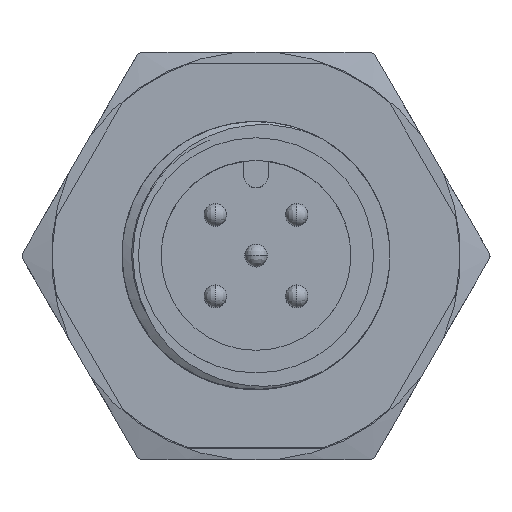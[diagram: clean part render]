
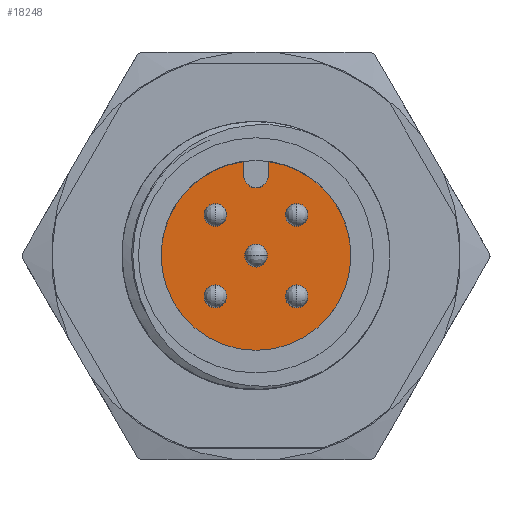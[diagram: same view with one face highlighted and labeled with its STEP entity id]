
A CAD part, top view. The second image highlights one B-rep face of the part: STEP entity #18248.
In plain terms, the highlighted planar face has unit normal (0, 0, 1).
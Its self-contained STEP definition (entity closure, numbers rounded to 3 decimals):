
#96 = CARTESIAN_POINT ( 'NONE',  ( -1.8, -1.8, -9. ) ) ;
#465 = DIRECTION ( 'NONE',  ( -1., 0., 0. ) ) ;
#481 = ORIENTED_EDGE ( 'NONE', *, *, #3209, .T. ) ;
#539 = AXIS2_PLACEMENT_3D ( 'NONE', #4181, #17751, #1861 ) ;
#584 = CARTESIAN_POINT ( 'NONE',  ( -1.8, 1.8, -9. ) ) ;
#600 = ORIENTED_EDGE ( 'NONE', *, *, #7146, .T. ) ;
#677 = CARTESIAN_POINT ( 'NONE',  ( -1.8, -1.8, -9. ) ) ;
#784 = CARTESIAN_POINT ( 'NONE',  ( 1.8, -2.3, -9. ) ) ;
#819 = DIRECTION ( 'NONE',  ( 0., 0., -1. ) ) ;
#908 = DIRECTION ( 'NONE',  ( -1., 0., 0. ) ) ;
#1058 = CIRCLE ( 'NONE', #2911, 0.5 ) ;
#1123 = VERTEX_POINT ( 'NONE', #18242 ) ;
#1203 = AXIS2_PLACEMENT_3D ( 'NONE', #677, #16801, #908 ) ;
#1227 = ORIENTED_EDGE ( 'NONE', *, *, #20174, .T. ) ;
#1405 = VERTEX_POINT ( 'NONE', #10468 ) ;
#1647 = AXIS2_PLACEMENT_3D ( 'NONE', #6809, #15513, #10181 ) ;
#1861 = DIRECTION ( 'NONE',  ( 1., 0., 0. ) ) ;
#2035 = CARTESIAN_POINT ( 'NONE',  ( 1.8, -1.8, -9. ) ) ;
#2148 = VECTOR ( 'NONE', #19038, 1000. ) ;
#2209 = DIRECTION ( 'NONE',  ( 0., 0., -1. ) ) ;
#2273 = EDGE_CURVE ( 'NONE', #12224, #9618, #20701, .T. ) ;
#2454 = FACE_OUTER_BOUND ( 'NONE', #9440, .T. ) ;
#2580 = DIRECTION ( 'NONE',  ( 0., 0., -1. ) ) ;
#2603 = DIRECTION ( 'NONE',  ( 0., 1., 0. ) ) ;
#2909 = FACE_BOUND ( 'NONE', #3083, .T. ) ;
#2910 = VERTEX_POINT ( 'NONE', #4271 ) ;
#2911 = AXIS2_PLACEMENT_3D ( 'NONE', #4310, #2580, #11277 ) ;
#2958 = EDGE_CURVE ( 'NONE', #10174, #4325, #4173, .T. ) ;
#3083 = EDGE_LOOP ( 'NONE', ( #22085, #11134 ) ) ;
#3209 = EDGE_CURVE ( 'NONE', #9900, #1405, #8696, .T. ) ;
#3793 = EDGE_CURVE ( 'NONE', #2910, #1123, #5036, .T. ) ;
#3842 = AXIS2_PLACEMENT_3D ( 'NONE', #16593, #819, #20177 ) ;
#4173 = CIRCLE ( 'NONE', #1203, 0.5 ) ;
#4181 = CARTESIAN_POINT ( 'NONE',  ( 0., 0., -9. ) ) ;
#4271 = CARTESIAN_POINT ( 'NONE',  ( -1.8, 2.3, -9. ) ) ;
#4310 = CARTESIAN_POINT ( 'NONE',  ( 1.8, -1.8, -9. ) ) ;
#4325 = VERTEX_POINT ( 'NONE', #5168 ) ;
#4333 = CARTESIAN_POINT ( 'NONE',  ( 0.55, 3.857, -9. ) ) ;
#4346 = ORIENTED_EDGE ( 'NONE', *, *, #16441, .T. ) ;
#4383 = CIRCLE ( 'NONE', #17340, 0.5 ) ;
#4894 = CARTESIAN_POINT ( 'NONE',  ( -0.55, -0.018, -9. ) ) ;
#5036 = CIRCLE ( 'NONE', #9112, 0.5 ) ;
#5168 = CARTESIAN_POINT ( 'NONE',  ( -1.8, -2.3, -9. ) ) ;
#5203 = DIRECTION ( 'NONE',  ( 1., 0., 0. ) ) ;
#5284 = VERTEX_POINT ( 'NONE', #784 ) ;
#5335 = CIRCLE ( 'NONE', #3842, 0.5 ) ;
#5925 = CARTESIAN_POINT ( 'NONE',  ( 0.55, 4.164, -9. ) ) ;
#6048 = CARTESIAN_POINT ( 'NONE',  ( 0.55, 3.55, -9. ) ) ;
#6417 = LINE ( 'NONE', #4894, #2148 ) ;
#6809 = CARTESIAN_POINT ( 'NONE',  ( 0., 3.55, -9. ) ) ;
#7121 = ORIENTED_EDGE ( 'NONE', *, *, #9734, .T. ) ;
#7146 = EDGE_CURVE ( 'NONE', #17878, #5284, #20063, .T. ) ;
#7571 = CARTESIAN_POINT ( 'NONE',  ( -1.8, 1.8, -9. ) ) ;
#7683 = DIRECTION ( 'NONE',  ( 1., 0., 0. ) ) ;
#8563 = CARTESIAN_POINT ( 'NONE',  ( 1.8, -1.3, -9. ) ) ;
#8696 = CIRCLE ( 'NONE', #1647, 0.55 ) ;
#8706 = EDGE_LOOP ( 'NONE', ( #600, #11695 ) ) ;
#8916 = CARTESIAN_POINT ( 'NONE',  ( 1.8, 2.3, -9. ) ) ;
#9112 = AXIS2_PLACEMENT_3D ( 'NONE', #7571, #21473, #18355 ) ;
#9440 = EDGE_LOOP ( 'NONE', ( #481, #4346, #7121, #13293, #21244 ) ) ;
#9441 = CIRCLE ( 'NONE', #21632, 0.5 ) ;
#9597 = EDGE_CURVE ( 'NONE', #1123, #2910, #16560, .T. ) ;
#9618 = VERTEX_POINT ( 'NONE', #5925 ) ;
#9687 = DIRECTION ( 'NONE',  ( -1., 0., 0. ) ) ;
#9734 = EDGE_CURVE ( 'NONE', #19053, #12224, #18681, .T. ) ;
#9900 = VERTEX_POINT ( 'NONE', #6048 ) ;
#9913 = EDGE_CURVE ( 'NONE', #18529, #21350, #9441, .T. ) ;
#10031 = EDGE_LOOP ( 'NONE', ( #11859, #16185 ) ) ;
#10174 = VERTEX_POINT ( 'NONE', #22933 ) ;
#10181 = DIRECTION ( 'NONE',  ( 1., 0., 0. ) ) ;
#10468 = CARTESIAN_POINT ( 'NONE',  ( -0.55, 3.55, -9. ) ) ;
#10776 = DIRECTION ( 'NONE',  ( 0., 0., -1. ) ) ;
#10866 = CARTESIAN_POINT ( 'NONE',  ( -0.55, 4.164, -9. ) ) ;
#11008 = DIRECTION ( 'NONE',  ( 0., 0., -1. ) ) ;
#11134 = ORIENTED_EDGE ( 'NONE', *, *, #3793, .T. ) ;
#11277 = DIRECTION ( 'NONE',  ( -1., 0., 0. ) ) ;
#11302 = CARTESIAN_POINT ( 'NONE',  ( 1.8, 1.8, -9. ) ) ;
#11321 = EDGE_CURVE ( 'NONE', #21350, #18529, #5335, .T. ) ;
#11400 = FACE_BOUND ( 'NONE', #14586, .T. ) ;
#11695 = ORIENTED_EDGE ( 'NONE', *, *, #18348, .T. ) ;
#11775 = AXIS2_PLACEMENT_3D ( 'NONE', #96, #10776, #17836 ) ;
#11782 = VERTEX_POINT ( 'NONE', #8916 ) ;
#11859 = ORIENTED_EDGE ( 'NONE', *, *, #2958, .T. ) ;
#12224 = VERTEX_POINT ( 'NONE', #17024 ) ;
#13051 = AXIS2_PLACEMENT_3D ( 'NONE', #2035, #18040, #9687 ) ;
#13165 = DIRECTION ( 'NONE',  ( 0., 0., -1. ) ) ;
#13293 = ORIENTED_EDGE ( 'NONE', *, *, #2273, .T. ) ;
#13483 = ORIENTED_EDGE ( 'NONE', *, *, #17383, .T. ) ;
#13666 = CARTESIAN_POINT ( 'NONE',  ( -0.5, 0., -9. ) ) ;
#13970 = AXIS2_PLACEMENT_3D ( 'NONE', #584, #2209, #465 ) ;
#14586 = EDGE_LOOP ( 'NONE', ( #21434, #20262 ) ) ;
#14872 = CARTESIAN_POINT ( 'NONE',  ( 0., -0.018, -9. ) ) ;
#14991 = PLANE ( 'NONE',  #18087 ) ;
#15127 = LINE ( 'NONE', #4333, #18072 ) ;
#15215 = FACE_BOUND ( 'NONE', #10031, .T. ) ;
#15368 = EDGE_CURVE ( 'NONE', #4325, #10174, #21749, .T. ) ;
#15513 = DIRECTION ( 'NONE',  ( 0., 0., -1. ) ) ;
#15890 = AXIS2_PLACEMENT_3D ( 'NONE', #16738, #19345, #5203 ) ;
#16185 = ORIENTED_EDGE ( 'NONE', *, *, #15368, .T. ) ;
#16441 = EDGE_CURVE ( 'NONE', #1405, #19053, #6417, .T. ) ;
#16510 = DIRECTION ( 'NONE',  ( -1., 0., 0. ) ) ;
#16560 = CIRCLE ( 'NONE', #13970, 0.5 ) ;
#16593 = CARTESIAN_POINT ( 'NONE',  ( 0., 0., -9. ) ) ;
#16655 = EDGE_LOOP ( 'NONE', ( #13483, #1227 ) ) ;
#16698 = DIRECTION ( 'NONE',  ( -1., 0., 0. ) ) ;
#16715 = DIRECTION ( 'NONE',  ( 0., 0., -1. ) ) ;
#16738 = CARTESIAN_POINT ( 'NONE',  ( 0., 0., -9. ) ) ;
#16801 = DIRECTION ( 'NONE',  ( 0., 0., -1. ) ) ;
#16925 = CIRCLE ( 'NONE', #21326, 0.5 ) ;
#17024 = CARTESIAN_POINT ( 'NONE',  ( 0., -4.2, -9. ) ) ;
#17340 = AXIS2_PLACEMENT_3D ( 'NONE', #11302, #13165, #16510 ) ;
#17383 = EDGE_CURVE ( 'NONE', #17514, #11782, #4383, .T. ) ;
#17408 = EDGE_CURVE ( 'NONE', #9900, #9618, #15127, .T. ) ;
#17423 = CARTESIAN_POINT ( 'NONE',  ( 1.8, 1.3, -9. ) ) ;
#17513 = CARTESIAN_POINT ( 'NONE',  ( 0.5, 0., -9. ) ) ;
#17514 = VERTEX_POINT ( 'NONE', #17423 ) ;
#17751 = DIRECTION ( 'NONE',  ( 0., 0., 1. ) ) ;
#17836 = DIRECTION ( 'NONE',  ( -1., 0., 0. ) ) ;
#17878 = VERTEX_POINT ( 'NONE', #8563 ) ;
#18040 = DIRECTION ( 'NONE',  ( 0., 0., -1. ) ) ;
#18072 = VECTOR ( 'NONE', #2603, 1000. ) ;
#18087 = AXIS2_PLACEMENT_3D ( 'NONE', #14872, #18794, #7683 ) ;
#18242 = CARTESIAN_POINT ( 'NONE',  ( -1.8, 1.3, -9. ) ) ;
#18248 = ADVANCED_FACE ( 'NONE', ( #11400, #2909, #20311, #20533, #15215, #2454 ), #14991, .T. ) ;
#18333 = CARTESIAN_POINT ( 'NONE',  ( 0., 0., -9. ) ) ;
#18348 = EDGE_CURVE ( 'NONE', #5284, #17878, #1058, .T. ) ;
#18355 = DIRECTION ( 'NONE',  ( -1., 0., 0. ) ) ;
#18433 = CARTESIAN_POINT ( 'NONE',  ( 1.8, 1.8, -9. ) ) ;
#18529 = VERTEX_POINT ( 'NONE', #17513 ) ;
#18681 = CIRCLE ( 'NONE', #539, 4.2 ) ;
#18794 = DIRECTION ( 'NONE',  ( 0., 0., 1. ) ) ;
#19038 = DIRECTION ( 'NONE',  ( 0., 1., 0. ) ) ;
#19053 = VERTEX_POINT ( 'NONE', #10866 ) ;
#19345 = DIRECTION ( 'NONE',  ( 0., 0., 1. ) ) ;
#20063 = CIRCLE ( 'NONE', #13051, 0.5 ) ;
#20174 = EDGE_CURVE ( 'NONE', #11782, #17514, #16925, .T. ) ;
#20177 = DIRECTION ( 'NONE',  ( 1., 0., 0. ) ) ;
#20182 = DIRECTION ( 'NONE',  ( 1., 0., 0. ) ) ;
#20262 = ORIENTED_EDGE ( 'NONE', *, *, #11321, .T. ) ;
#20311 = FACE_BOUND ( 'NONE', #16655, .T. ) ;
#20533 = FACE_BOUND ( 'NONE', #8706, .T. ) ;
#20701 = CIRCLE ( 'NONE', #15890, 4.2 ) ;
#21244 = ORIENTED_EDGE ( 'NONE', *, *, #17408, .F. ) ;
#21326 = AXIS2_PLACEMENT_3D ( 'NONE', #18433, #11008, #16698 ) ;
#21350 = VERTEX_POINT ( 'NONE', #13666 ) ;
#21434 = ORIENTED_EDGE ( 'NONE', *, *, #9913, .T. ) ;
#21473 = DIRECTION ( 'NONE',  ( 0., 0., -1. ) ) ;
#21632 = AXIS2_PLACEMENT_3D ( 'NONE', #18333, #16715, #20182 ) ;
#21749 = CIRCLE ( 'NONE', #11775, 0.5 ) ;
#22085 = ORIENTED_EDGE ( 'NONE', *, *, #9597, .T. ) ;
#22933 = CARTESIAN_POINT ( 'NONE',  ( -1.8, -1.3, -9. ) ) ;
